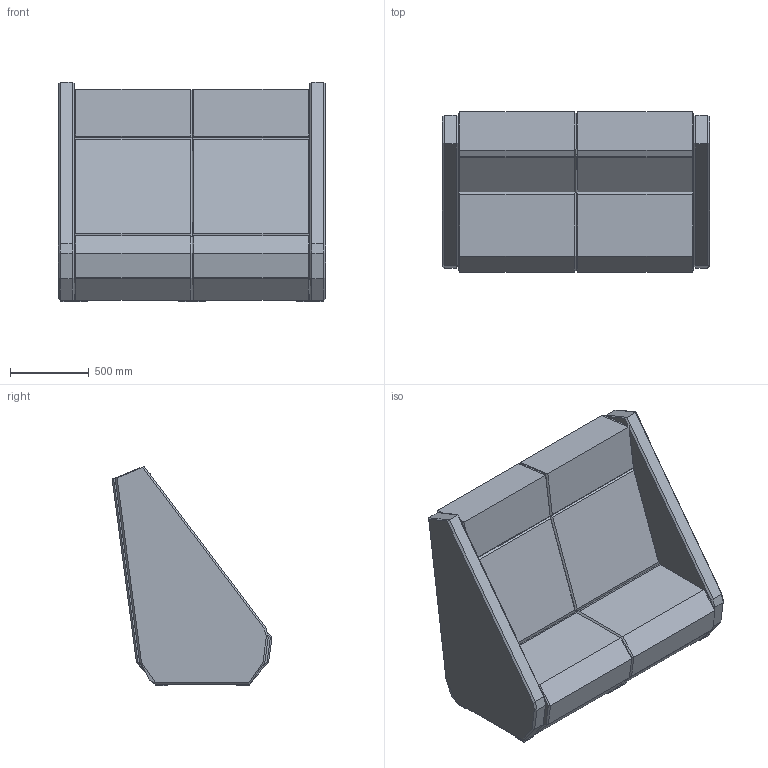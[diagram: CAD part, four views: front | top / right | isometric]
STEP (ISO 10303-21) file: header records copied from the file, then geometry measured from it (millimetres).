
FILE_DESCRIPTION(/* description */ (''),/* implementation_level */ '2;1');
FILE_NAME(/* name */ 'KM2-BR~1',/* time_stamp */ '2015-10-05T16:27:46+02:00',/* author */ (''),/* organization */ (''),/* preprocessor_version */ 'ST-DEVELOPER v15',/* originating_system */ '',/* authorisation */ '');
FILE_SCHEMA (('CONFIG_CONTROL_DESIGN'));
Length unit declared in the file: millimetre
Products named in the file (1): Document
Bounding box: 1700 x 1017.73 x 1397.94 mm (x, y, z)
Volume: 959530187.1 mm3; surface area: 13085665.7 mm2
Topology: 10 solids, 14 shells, 240 faces, 595 edges, 348 vertices
Faces by surface type: bspline 202, plane 38
Entity records: 8673 total; most frequent: CARTESIAN_POINT 5617, ORIENTED_EDGE 1088, EDGE_CURVE 560, VERTEX_POINT 344, ADVANCED_FACE 240, FACE_OUTER_BOUND 240, EDGE_LOOP 240, B_SPLINE_CURVE_WITH_KNOTS 76
